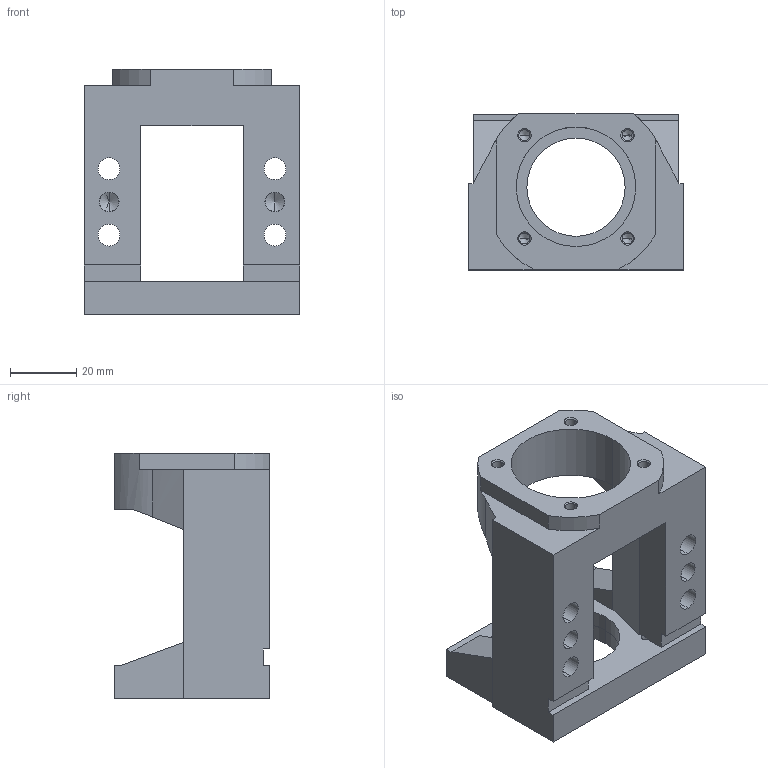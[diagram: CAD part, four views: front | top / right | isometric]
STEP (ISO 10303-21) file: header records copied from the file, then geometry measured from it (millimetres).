
FILE_DESCRIPTION (( 'STEP AP203' ), '1' );
FILE_NAME ('MBA12-A.STEP', '2011-09-29T00:51:31', ( '' ), ( '' ), 'SwSTEP 2.0', 'SolidWorks 2011', '' );
FILE_SCHEMA (( 'CONFIG_CONTROL_DESIGN' ));
Length unit declared in the file: millimetre
Products named in the file (1): MBA12-A
Bounding box: 65 x 47 x 74 mm (x, y, z)
Volume: 85450.5 mm3; surface area: 25891.4 mm2
Topology: 1 solids, 1 shells, 125 faces, 328 edges, 198 vertices
Faces by surface type: cylinder 52, plane 41, cone 32
Entity records: 3871 total; most frequent: DIRECTION 680, CARTESIAN_POINT 676, ORIENTED_EDGE 624, EDGE_CURVE 312, AXIS2_PLACEMENT_3D 250, VERTEX_POINT 198, LINE 180, VECTOR 180
